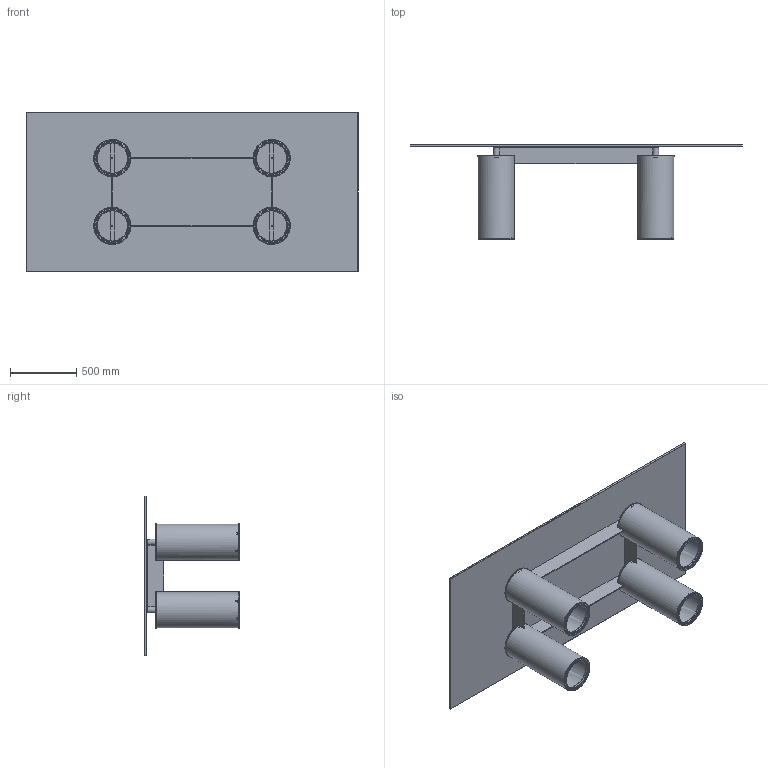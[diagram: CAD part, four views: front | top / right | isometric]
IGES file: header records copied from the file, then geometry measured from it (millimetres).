
Start section: SolidWorks IGES file using NURBS representation for surfaces
Global section: file name: \\fs\Gruppi\Tecnico\UFFICIO TECNICO\PROGETTI in SVILUPPO\2021\SERENISSIMO\3D\SERENISSIMO - 250X120.IGS; native system: SolidWorks 2019; preprocessor: SolidWorks 2019; author: prell; date: 210715.113641; units: millimetre
Bounding box: 2500 x 714 x 1200 mm (x, y, z)
Surface area: 12108614.2 mm2 (no closed solid volume)
Topology: 0 solids, 0 shells, 1955 faces, 10812 edges, 10728 vertices
Faces by surface type: bspline 1955
